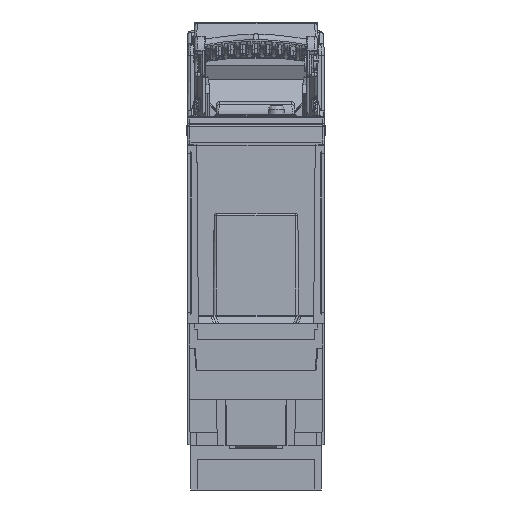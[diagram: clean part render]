
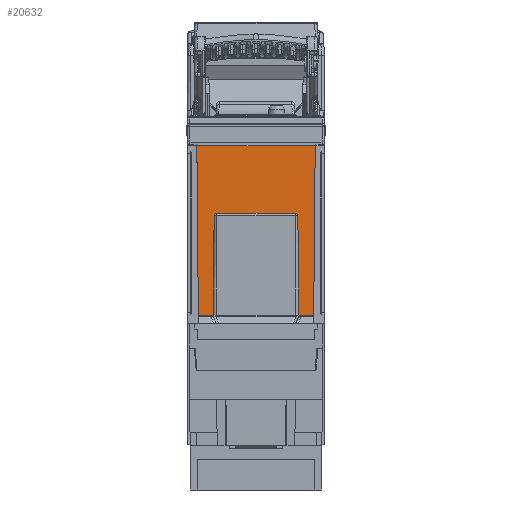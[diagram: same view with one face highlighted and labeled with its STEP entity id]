
A CAD part, left-side view. The second image highlights one B-rep face of the part: STEP entity #20632.
In plain terms, the highlighted planar face has unit normal (-1, 0, 0).
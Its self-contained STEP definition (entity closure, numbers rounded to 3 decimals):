
#10593=CIRCLE('',#117971,1.);
#10594=CIRCLE('',#117972,1.);
#14160=FACE_OUTER_BOUND('',#47972,.T.);
#20632=ADVANCED_FACE('',(#14160),#27130,.T.);
#27130=PLANE('',#117973);
#30805=LINE('',#155452,#39046);
#30810=LINE('',#155467,#39051);
#30811=LINE('',#155469,#39052);
#30812=LINE('',#155471,#39053);
#30813=LINE('',#155473,#39054);
#30814=LINE('',#155477,#39055);
#30815=LINE('',#155481,#39056);
#30816=LINE('',#155483,#39057);
#39046=VECTOR('',#127371,1.);
#39051=VECTOR('',#127378,1.);
#39052=VECTOR('',#127379,1.);
#39053=VECTOR('',#127380,1.);
#39054=VECTOR('',#127381,1.);
#39055=VECTOR('',#127384,1.);
#39056=VECTOR('',#127387,1.);
#39057=VECTOR('',#127388,1.);
#47972=EDGE_LOOP('',(#55879,#55880,#55881,#55882,#55883,#55884,#55885,#55886,
#55887,#55888));
#55879=ORIENTED_EDGE('',*,*,#100708,.T.);
#55880=ORIENTED_EDGE('',*,*,#100714,.T.);
#55881=ORIENTED_EDGE('',*,*,#100715,.T.);
#55882=ORIENTED_EDGE('',*,*,#100716,.T.);
#55883=ORIENTED_EDGE('',*,*,#100717,.T.);
#55884=ORIENTED_EDGE('',*,*,#100718,.T.);
#55885=ORIENTED_EDGE('',*,*,#100719,.T.);
#55886=ORIENTED_EDGE('',*,*,#100720,.T.);
#55887=ORIENTED_EDGE('',*,*,#100721,.T.);
#55888=ORIENTED_EDGE('',*,*,#100722,.T.);
#89675=VERTEX_POINT('',#155451);
#89676=VERTEX_POINT('',#155453);
#89681=VERTEX_POINT('',#155468);
#89682=VERTEX_POINT('',#155470);
#89683=VERTEX_POINT('',#155472);
#89684=VERTEX_POINT('',#155474);
#89685=VERTEX_POINT('',#155476);
#89686=VERTEX_POINT('',#155478);
#89687=VERTEX_POINT('',#155480);
#89688=VERTEX_POINT('',#155482);
#100708=EDGE_CURVE('',#89676,#89675,#30805,.T.);
#100714=EDGE_CURVE('',#89675,#89681,#30810,.T.);
#100715=EDGE_CURVE('',#89681,#89682,#30811,.T.);
#100716=EDGE_CURVE('',#89682,#89683,#30812,.T.);
#100717=EDGE_CURVE('',#89683,#89684,#30813,.T.);
#100718=EDGE_CURVE('',#89684,#89685,#10593,.T.);
#100719=EDGE_CURVE('',#89685,#89686,#30814,.T.);
#100720=EDGE_CURVE('',#89686,#89687,#10594,.T.);
#100721=EDGE_CURVE('',#89687,#89688,#30815,.T.);
#100722=EDGE_CURVE('',#89688,#89676,#30816,.T.);
#117971=AXIS2_PLACEMENT_3D('',#155475,#127382,#127383);
#117972=AXIS2_PLACEMENT_3D('',#155479,#127385,#127386);
#117973=AXIS2_PLACEMENT_3D('',#155484,#127389,#127390);
#127371=DIRECTION('',(0.,-0.009,1.));
#127378=DIRECTION('',(0.,1.,0.));
#127379=DIRECTION('',(0.,-0.009,-1.));
#127380=DIRECTION('',(0.,-1.,0.));
#127381=DIRECTION('',(0.,-0.009,1.));
#127382=DIRECTION('',(1.,0.,0.));
#127383=DIRECTION('',(0.,0.,-1.));
#127384=DIRECTION('',(0.,-1.,0.));
#127385=DIRECTION('',(1.,0.,0.));
#127386=DIRECTION('',(0.,0.,1.));
#127387=DIRECTION('',(0.,-0.009,-1.));
#127388=DIRECTION('',(0.,-1.,0.));
#127389=DIRECTION('',(-1.,0.,0.));
#127390=DIRECTION('',(0.,0.,1.));
#155451=CARTESIAN_POINT('',(-246.381,-21.487,106.));
#155452=CARTESIAN_POINT('',(-246.381,-20.687,14.319));
#155453=CARTESIAN_POINT('',(-246.381,-20.95,44.5));
#155467=CARTESIAN_POINT('',(-246.381,24.058,106.));
#155468=CARTESIAN_POINT('',(-246.381,21.469,106.));
#155469=CARTESIAN_POINT('',(-246.381,21.474,106.5));
#155470=CARTESIAN_POINT('',(-246.381,20.933,44.5));
#155471=CARTESIAN_POINT('',(-246.381,24.058,44.5));
#155472=CARTESIAN_POINT('',(-246.381,15.513,44.5));
#155473=CARTESIAN_POINT('',(-246.381,15.513,44.5));
#155474=CARTESIAN_POINT('',(-246.381,15.199,80.509));
#155475=CARTESIAN_POINT('',(-246.381,14.199,80.5));
#155476=CARTESIAN_POINT('',(-246.381,14.199,81.5));
#155477=CARTESIAN_POINT('',(-246.381,24.058,81.5));
#155478=CARTESIAN_POINT('',(-246.381,-14.199,81.5));
#155479=CARTESIAN_POINT('',(-246.381,-14.199,80.5));
#155480=CARTESIAN_POINT('',(-246.381,-15.199,80.509));
#155481=CARTESIAN_POINT('',(-246.381,-15.199,80.509));
#155482=CARTESIAN_POINT('',(-246.381,-15.513,44.5));
#155483=CARTESIAN_POINT('',(-246.381,24.058,44.5));
#155484=CARTESIAN_POINT('',(-246.381,24.058,14.));
